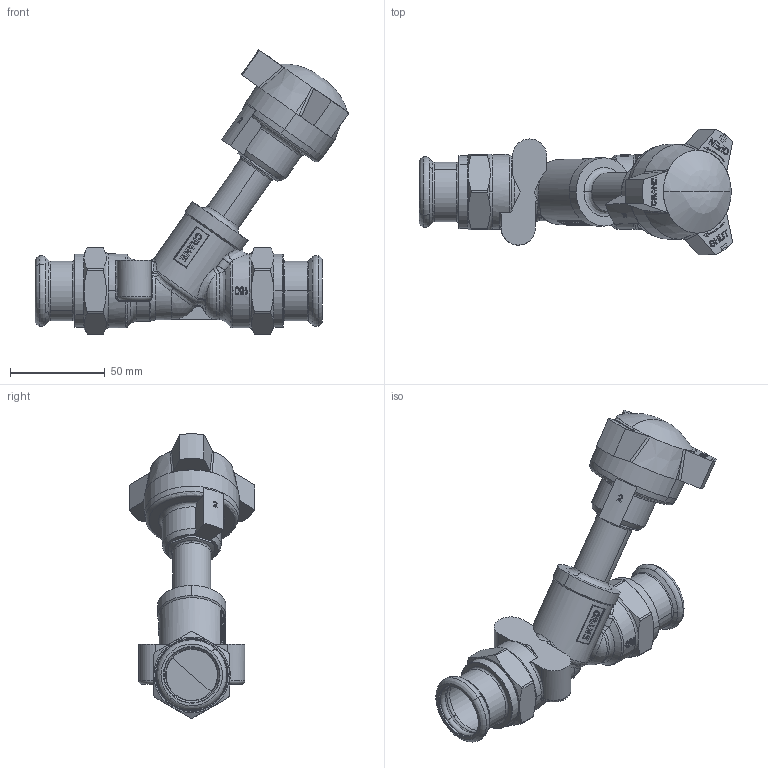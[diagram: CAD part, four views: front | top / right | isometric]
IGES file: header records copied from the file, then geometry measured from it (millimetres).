
Global section: file name: No Iges File Name specified; native system: AutoDesk Inventor R12.0; preprocessor: AutoDesk Inventor Iges Exporter R12.0; date: 20110823.163912; units: millimetre
Bounding box: 165.5 x 66.44 x 149.98 mm (x, y, z)
Volume: 242807.9 mm3; surface area: 48487.6 mm2
Topology: 1 solids, 3 shells, 827 faces, 2252 edges, 1474 vertices
Faces by surface type: bspline 350, plane 299, cylinder 74, cone 52, torus 26, revolution 24, sphere 2
